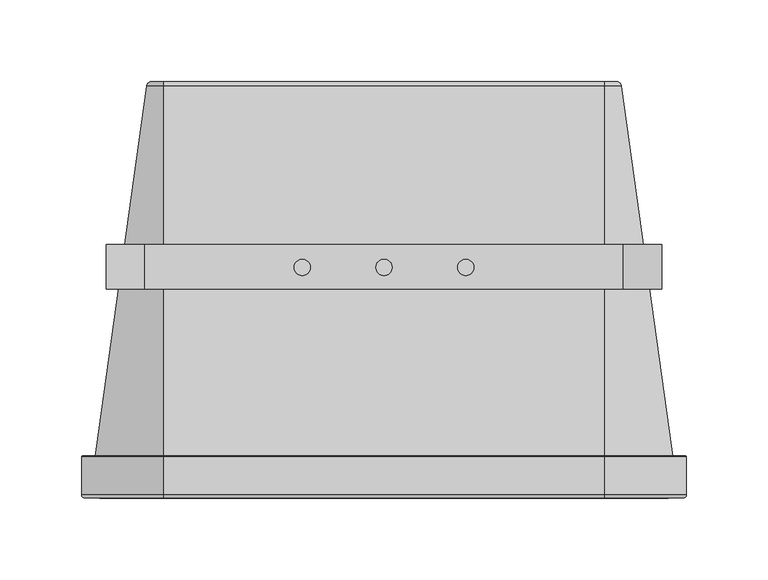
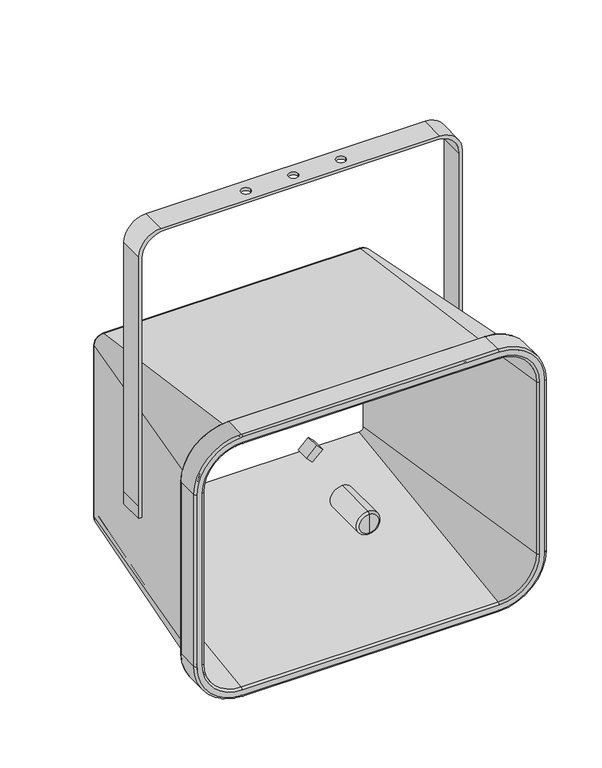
"""IFC4 building model written with IfcOpenShell, lengths in millimetres: proxy geometry, 230208 BIM Data_CS 532T VA-FR : CS 532T VA."""

from ifc_helpers import new_model, si_unit, point, frame, origin, place, context, project, spatial, polyline, circle_curve, ellipse_curve, trimmed, outline, extrude, source, transform, mapped, element, save
from ifc_brep_helpers import plane_surface, cylinder_surface, revolved_surface, advanced_brep


def communication_devices_31aff338(model_context):
    return source(origin(), model_context, "Body", "SolidModel", [
        advanced_brep(
        [(167.0, 0.50011, 146.5), (167.0, 0.50011, 133.0), (170.0, 0.50011, 133.0), (170.0, 0.50011, 424.0), (146.5, 0.50011, 447.5), (-146.5, 0.50011, 447.5), (-170.0, 0.50011, 424.0), (-170.0, 0.50011, 146.5), (-170.0, 0.50011, 133.0), (-167.0, 0.50011, 133.0), (-167.0, 0.50011, 146.5), (-167.0, 0.50011, 421.0338895), (-143.5338895, 0.50011, 444.5), (143.5, 0.50011, 444.5), (167.0, 0.50011, 421.0), (167.0, 27.6524388, 146.5), (167.0, 27.6524388, 421.0), (143.5, 27.6524388, 444.5), (-143.5338895, 27.6524388, 444.5), (-167.0, 27.6524388, 421.0338895), (-167.0, 27.6524388, 146.5), (-167.0, 27.6524388, 133.0), (-170.0, 27.6524388, 133.0), (-170.0, 27.6524388, 146.5), (-170.0, 27.6524388, 424.0), (-146.5, 27.6524388, 447.5), (146.5, 27.6524388, 447.5), (170.0, 27.6524388, 424.0), (170.0, 27.6524388, 133.0), (167.0, 27.6524388, 133.0), (5.0, 13.7017505, 447.5), (-5.0, 13.7017505, 447.5), (55.0, 13.7017505, 447.5), (45.0, 13.7017505, 447.5), (-45.0, 13.7017505, 447.5), (-55.0, 13.7017505, 447.5), (-5.0, 13.7017505, 444.5), (5.0, 13.7017505, 444.5), (45.0, 13.7017505, 444.5), (55.0, 13.7017505, 444.5), (-55.0, 13.7017505, 444.5), (-45.0, 13.7017505, 444.5)],
        [
            (0, 1),
            (1, 2),
            (2, 3),
            (3, 4, circle_curve(frame((146.5, 0.50011, 424.0), z_axis=(0.0, -1.0, 0.0), x_axis=(1.0, 0.0, 0.0)), 23.5)),
            (4, 5),
            (5, 6, circle_curve(frame((-146.5, 0.50011, 424.0), z_axis=(0.0, -1.0, 0.0), x_axis=(1.0, 0.0, 0.0)), 23.5)),
            (6, 7),
            (7, 8),
            (8, 9),
            (9, 10),
            (10, 11),
            (11, 12, circle_curve(frame((-143.5338895, 0.50011, 421.0338895), z_axis=(0.0, 1.0, 0.0), x_axis=(1.0, 0.0, 0.0)), 23.4661105)),
            (12, 13),
            (13, 14, circle_curve(frame((143.5, 0.50011, 421.0), z_axis=(0.0, 1.0, 0.0), x_axis=(1.0, 0.0, 0.0)), 23.5)),
            (14, 0),
            (15, 16),
            (16, 17, circle_curve(frame((143.5, 27.6524388, 421.0), z_axis=(0.0, -1.0, 0.0), x_axis=(1.0, 0.0, 0.0)), 23.5)),
            (17, 18),
            (18, 19, circle_curve(frame((-143.5338895, 27.6524388, 421.0338895), z_axis=(0.0, -1.0, 0.0), x_axis=(1.0, 0.0, 0.0)), 23.4661105)),
            (19, 20),
            (20, 21),
            (21, 22),
            (22, 23),
            (23, 24),
            (24, 25, circle_curve(frame((-146.5, 27.6524388, 424.0), z_axis=(0.0, 1.0, 0.0), x_axis=(1.0, 0.0, 0.0)), 23.5)),
            (25, 26),
            (26, 27, circle_curve(frame((146.5, 27.6524388, 424.0), z_axis=(0.0, 1.0, 0.0), x_axis=(1.0, 0.0, 0.0)), 23.5)),
            (27, 28),
            (28, 29),
            (29, 15),
            (0, 15),
            (29, 1),
            (28, 2),
            (27, 3),
            (26, 4),
            (25, 5),
            (30, 31, circle_curve(frame((0.0, 13.7017505, 447.5), z_axis=(0.0, 0.0, -1.0), x_axis=(1.0, 0.0, 0.0)), 5.0)),
            (31, 30, circle_curve(frame((0.0, 13.7017505, 447.5), z_axis=(0.0, 0.0, -1.0), x_axis=(1.0, 0.0, 0.0)), 5.0)),
            (32, 33, circle_curve(frame((50.0, 13.7017505, 447.5), z_axis=(0.0, 0.0, -1.0), x_axis=(1.0, 0.0, 0.0)), 5.0)),
            (33, 32, circle_curve(frame((50.0, 13.7017505, 447.5), z_axis=(0.0, 0.0, -1.0), x_axis=(1.0, 0.0, 0.0)), 5.0)),
            (34, 35, circle_curve(frame((-50.0, 13.7017505, 447.5), z_axis=(0.0, 0.0, -1.0), x_axis=(1.0, 0.0, 0.0)), 5.0)),
            (35, 34, circle_curve(frame((-50.0, 13.7017505, 447.5), z_axis=(0.0, 0.0, -1.0), x_axis=(1.0, 0.0, 0.0)), 5.0)),
            (24, 6),
            (23, 7),
            (22, 8),
            (21, 9),
            (20, 10),
            (19, 11),
            (18, 12),
            (17, 13),
            (36, 37, circle_curve(frame((0.0, 13.7017505, 444.5), z_axis=(0.0, 0.0, 1.0), x_axis=(1.0, 0.0, 0.0)), 5.0)),
            (37, 36, circle_curve(frame((0.0, 13.7017505, 444.5), z_axis=(0.0, 0.0, 1.0), x_axis=(1.0, 0.0, 0.0)), 5.0)),
            (38, 39, circle_curve(frame((50.0, 13.7017505, 444.5), z_axis=(0.0, 0.0, 1.0), x_axis=(1.0, 0.0, 0.0)), 5.0)),
            (39, 38, circle_curve(frame((50.0, 13.7017505, 444.5), z_axis=(0.0, 0.0, 1.0), x_axis=(1.0, 0.0, 0.0)), 5.0)),
            (40, 41, circle_curve(frame((-50.0, 13.7017505, 444.5), z_axis=(0.0, 0.0, 1.0), x_axis=(1.0, 0.0, 0.0)), 5.0)),
            (41, 40, circle_curve(frame((-50.0, 13.7017505, 444.5), z_axis=(0.0, 0.0, 1.0), x_axis=(1.0, 0.0, 0.0)), 5.0)),
            (16, 14),
            (36, 31),
            (30, 37),
            (38, 33),
            (32, 39),
            (40, 35),
            (34, 41),
        ],
        [
            plane_surface(frame((167.0, 0.50011, 133.0), z_axis=(0.0, -1.0, 0.0), x_axis=(0.0, 0.0, -1.0))),
            plane_surface(frame((167.0, 27.6524388, 133.0), z_axis=(0.0, 1.0, 0.0), x_axis=(0.0, 0.0, 1.0))),
            plane_surface(frame((167.0, 0.50011, 146.5), z_axis=(-1.0, 0.0, 0.0), x_axis=(0.0, 1.0, 0.0))),
            plane_surface(frame((167.0, 0.50011, 133.0), z_axis=(0.0, 0.0, -1.0), x_axis=(0.0, 1.0, 0.0))),
            plane_surface(frame((170.0, 0.50011, 133.0), z_axis=(1.0, 0.0, 0.0), x_axis=(0.0, 1.0, 0.0))),
            cylinder_surface(frame((146.5, 27.6524388, 424.0), z_axis=(0.0, -1.0, 0.0), x_axis=(1.0, 0.0, 0.0)), 23.5),
            plane_surface(frame((146.5, 0.50011, 447.5), z_axis=(0.0, 0.0, 1.0), x_axis=(0.0, 1.0, 0.0))),
            cylinder_surface(frame((-146.5, 27.6524388, 424.0), z_axis=(0.0, -1.0, 0.0), x_axis=(1.0, 0.0, 0.0)), 23.5),
            plane_surface(frame((-170.0, 0.50011, 424.0), z_axis=(-1.0, 0.0, 0.0), x_axis=(0.0, 1.0, 0.0))),
            plane_surface(frame((-170.0, 0.50011, 146.5), z_axis=(-1.0, 0.0, 0.0), x_axis=(0.0, 1.0, 0.0))),
            plane_surface(frame((-170.0, 0.50011, 133.0), z_axis=(0.0, 0.0, -1.0), x_axis=(0.0, 1.0, 0.0))),
            plane_surface(frame((-167.0, 0.50011, 133.0), z_axis=(1.0, 0.0, 0.0), x_axis=(0.0, 1.0, 0.0))),
            plane_surface(frame((-167.0, 0.50011, 146.5), z_axis=(1.0, 0.0, 0.0), x_axis=(0.0, 1.0, 0.0))),
            revolved_surface(polyline([(-120.06777899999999, 27.6524388, 421.0338895), (-120.06777899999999, 0.5001099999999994, 421.0338895)]), (-143.5338895, 27.6524388, 421.0338895), (0.0, 1.0, 0.0)),
            plane_surface(frame((-143.5338895, 0.50011, 444.5), z_axis=(0.0, 0.0, -1.0), x_axis=(0.0, 1.0, 0.0))),
            revolved_surface(polyline([(167.0, 27.6524388, 421.0), (167.0, 0.5001099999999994, 421.0)]), (143.5, 27.6524388, 421.0), (0.0, 1.0, 0.0)),
            plane_surface(frame((167.0, 0.50011, 421.0), z_axis=(-1.0, 0.0, 0.0), x_axis=(0.0, 1.0, 0.0))),
            revolved_surface(polyline([(5.0, 13.7017505, 447.5), (5.0, 13.7017505, 444.5)]), (0.0, 13.7017505, 344.2487757), (0.0, 0.0, 1.0)),
            revolved_surface(polyline([(55.0, 13.7017505, 447.5), (55.0, 13.7017505, 444.5)]), (50.0, 13.7017505, 0.0), (0.0, 0.0, 1.0)),
            revolved_surface(polyline([(-45.0, 13.7017505, 447.5), (-45.0, 13.7017505, 444.5)]), (-50.0, 13.7017505, 0.0), (0.0, 0.0, 1.0)),
        ],
        [
            (0, [[1, 2, 3, 4, 5, 6, 7, 8, 9, 10, 11, 12, 13, 14, 15]]),
            (1, [[16, 17, 18, 19, 20, 21, 22, 23, 24, 25, 26, 27, 28, 29, 30]]),
            (2, [[-1, 31, -30, 32]]),
            (3, [[-2, -32, -29, 33]]),
            (4, [[-3, -33, -28, 34]]),
            (5, [[-4, -34, -27, 35]]),
            (6, [[-5, -35, -26, 36], [37, 38], [39, 40], [41, 42]]),
            (7, [[-6, -36, -25, 43]]),
            (8, [[-7, -43, -24, 44]]),
            (9, [[-8, -44, -23, 45]]),
            (10, [[-9, -45, -22, 46]]),
            (11, [[-10, -46, -21, 47]]),
            (12, [[-11, -47, -20, 48]]),
            (13, [[-12, -48, -19, 49]]),
            (14, [[-13, -49, -18, 50], [51, 52], [53, 54], [55, 56]]),
            (15, [[-14, -50, -17, 57]]),
            (16, [[-15, -57, -16, -31]]),
            (17, [[58, -37, 59, -51]]),
            (17, [[-58, -52, -59, -38]]),
            (18, [[60, -39, 61, -53]]),
            (18, [[-60, -54, -61, -40]]),
            (19, [[62, -41, 63, -55]]),
            (19, [[-62, -56, -63, -42]]),
        ],
    ),
        advanced_brep(
        [(185.0, -125.5969324, 241.0), (135.0, -125.5969324, 291.0), (135.0, -127.5, 289.0969324), (183.0969324, -127.5, 241.0), (185.0, -102.2644169, 241.0), (135.0, -102.2644169, 291.0), (184.2842577, -101.5486745, 241.0), (135.0, -101.5486745, 290.2842577), (182.6307827, -121.5486745, 241.0), (135.0, -121.5486745, 288.6307827), (135.0, -101.5486745, 288.6307827), (182.6307827, -101.5486745, 241.0), (145.3017115, 124.8940979, 241.0), (135.0, 124.8940979, 251.3017115), (135.0, -119.685317, 285.247373), (179.247373, -119.685317, 241.0), (175.0565132, -125.6555711, 241.0), (135.0, -125.6555711, 281.0565132), (135.0, 127.5, 245.4778179), (139.4778179, 127.5, 241.0), (183.0969324, -127.5, 50.0), (185.0, -125.5969324, 50.0), (185.0, -102.2644169, 50.0), (184.2842577, -101.5486745, 50.0), (182.6307827, -101.5486745, 50.0), (182.6307827, -121.5486745, 50.0), (179.247373, -119.685317, 50.0), (145.3017115, 124.8940979, 50.0), (139.4778179, 127.5, 50.0), (175.0565132, -125.6555711, 50.0), (135.0, -125.5969324, 0.0), (135.0, -127.5, 1.9030676), (135.0, -102.2644169, 0.0), (135.0, -101.5486745, 0.7157423), (135.0, -121.5486745, 2.3692173), (135.0, -101.5486745, 2.3692173), (135.0, 124.8940979, 39.6982885), (135.0, -119.685317, 5.752627), (135.0, -125.6555711, 9.9434868), (135.0, 127.5, 45.5221821), (-135.0, -127.5, 1.9030676), (-135.0, -125.5969324, 0.0), (-135.0, -102.2644169, 0.0), (-135.0, -101.5486745, 0.7157423), (-135.0, -101.5486745, 2.3692173), (-135.0, -121.5486745, 2.3692173), (-135.0, -119.685317, 5.752627), (-135.0, 124.8940979, 39.6982885), (-135.0, 127.5, 45.5221821), (-135.0, -125.6555711, 9.9434868), (-185.0, -125.5969324, 50.0), (-183.0969324, -127.5, 50.0), (-185.0, -102.2644169, 50.0), (-184.2842577, -101.5486745, 50.0), (-182.6307827, -121.5486745, 50.0), (-182.6307827, -101.5486745, 50.0), (-145.3017115, 124.8940979, 50.0), (-179.247373, -119.685317, 50.0), (-175.0565132, -125.6555711, 50.0), (-139.4778179, 127.5, 50.0), (-183.0969324, -127.5, 241.0), (-185.0, -125.5969324, 241.0), (-185.0, -102.2644169, 241.0), (-184.2842577, -101.5486745, 241.0), (-182.6307827, -101.5486745, 241.0), (-182.6307827, -121.5486745, 241.0), (-179.247373, -119.685317, 241.0), (-145.3017115, 124.8940979, 241.0), (-139.4778179, 127.5, 241.0), (-175.0565132, -125.6555711, 241.0), (-135.0, -125.5969324, 291.0), (-135.0, -127.5, 289.0969324), (-135.0, -102.2644169, 291.0), (-135.0, -101.5486745, 290.2842577), (-135.0, -121.5486745, 288.6307827), (-135.0, -101.5486745, 288.6307827), (-135.0, 124.8940979, 251.3017115), (-135.0, -119.685317, 285.247373), (-135.0, -125.6555711, 281.0565132), (-135.0, 127.5, 245.4778179), (-177.1782859, -127.5, 50.0), (-177.1782859, -127.5, 241.0), (-135.0, -127.5, 283.1782859), (135.0, -127.5, 283.1782859), (177.1782859, -127.5, 241.0), (177.1782859, -127.5, 50.0), (135.0, -127.5, 7.8217141), (-135.0, -127.5, 7.8217141), (135.0, -121.5486745, 287.3909207), (-135.0, -121.5486745, 287.3909207), (-181.3909207, -121.5486745, 241.0), (-181.3909207, -121.5486745, 50.0), (-135.0, -121.5486745, 3.6090793), (135.0, -121.5486745, 3.6090793), (181.3909207, -121.5486745, 50.0), (181.3909207, -121.5486745, 241.0), (-142.3091519, 127.5, 50.0), (-142.3091519, 127.5, 241.0), (-135.0, 127.5, 248.3091519), (135.0, 127.5, 248.3091519), (142.3091519, 127.5, 241.0), (142.3091519, 127.5, 50.0), (135.0, 127.5, 42.6908481), (-135.0, 127.5, 42.6908481)],
        [
            (0, 1, circle_curve(frame((135.0, -125.5969324, 241.0), z_axis=(0.0, -1.0, 0.0), x_axis=(0.0, 0.0, 1.0)), 50.0)),
            (1, 2, circle_curve(frame((135.0, -125.5969324, 289.0969324), z_axis=(1.0, 0.0, 0.0), x_axis=(0.0, 0.0, 1.0)), 1.9030676)),
            (2, 3, circle_curve(frame((135.0, -127.5, 241.0), z_axis=(0.0, 1.0, 0.0), x_axis=(0.0, 0.0, 1.0)), 48.0969324)),
            (3, 0, circle_curve(frame((183.0969324, -125.5969324, 241.0), z_axis=(0.0, 0.0, 1.0), x_axis=(1.0, 0.0, 0.0)), 1.9030676)),
            (4, 5, circle_curve(frame((135.0, -102.2644169, 241.0), z_axis=(0.0, -1.0, 0.0), x_axis=(0.0, 0.0, 1.0)), 50.0)),
            (5, 1),
            (0, 4),
            (6, 7, circle_curve(frame((135.0, -101.5486745, 241.0), z_axis=(0.0, -1.0, 0.0), x_axis=(0.0, 0.0, 1.0)), 49.2842577)),
            (7, 5, circle_curve(frame((135.0, -102.2644169, 290.2842577), z_axis=(1.0, 0.0, 0.0), x_axis=(0.0, 0.0, 1.0)), 0.7157423)),
            (4, 6, circle_curve(frame((184.2842577, -102.2644169, 241.0), z_axis=(0.0, 0.0, 1.0), x_axis=(1.0, 0.0, 0.0)), 0.7157423)),
            (8, 9, circle_curve(frame((135.0, -121.5486745, 241.0), z_axis=(0.0, -1.0, 0.0), x_axis=(0.0, 0.0, 1.0)), 47.6307827)),
            (9, 10),
            (10, 11, circle_curve(frame((135.0, -101.5486745, 241.0), z_axis=(0.0, 1.0, 0.0), x_axis=(0.0, 0.0, 1.0)), 47.6307827)),
            (11, 8),
            (12, 13, circle_curve(frame((135.0, 124.8940979, 241.0), z_axis=(0.0, -1.0, 0.0), x_axis=(0.0, 0.0, 1.0)), 10.3017115)),
            (13, 14),
            (14, 15, circle_curve(frame((135.0, -119.685317, 241.0), z_axis=(0.0, 1.0, 0.0), x_axis=(0.0, 0.0, 1.0)), 44.247373)),
            (15, 12),
            (16, 17, circle_curve(frame((135.0, -125.6555711, 241.0), z_axis=(0.0, -1.0, 0.0), x_axis=(0.0, 0.0, 1.0)), 40.0565132)),
            (17, 18),
            (18, 19, circle_curve(frame((135.0, 127.5, 241.0), z_axis=(0.0, 1.0, 0.0), x_axis=(0.0, 0.0, 1.0)), 4.4778179)),
            (19, 16),
            (3, 20),
            (20, 21, circle_curve(frame((183.0969324, -125.5969324, 50.0), z_axis=(0.0, 0.0, 1.0), x_axis=(1.0, 0.0, 0.0)), 1.9030676)),
            (21, 0),
            (21, 22),
            (22, 4),
            (22, 23, circle_curve(frame((184.2842577, -102.2644169, 50.0), z_axis=(0.0, 0.0, 1.0), x_axis=(1.0, 0.0, 0.0)), 0.7157423)),
            (23, 6),
            (11, 24),
            (24, 25),
            (25, 8),
            (15, 26),
            (26, 27),
            (27, 12),
            (19, 28),
            (28, 29),
            (29, 16),
            (30, 21, circle_curve(frame((135.0, -125.5969324, 50.0), z_axis=(0.0, -1.0, 0.0), x_axis=(1.0, 0.0, 0.0)), 50.0)),
            (20, 31, circle_curve(frame((135.0, -127.5, 50.0), z_axis=(0.0, 1.0, 0.0), x_axis=(1.0, 0.0, 0.0)), 48.0969324)),
            (31, 30, circle_curve(frame((135.0, -125.5969324, 1.9030676), z_axis=(1.0, 0.0, 0.0), x_axis=(0.0, 0.0, -1.0)), 1.9030676)),
            (32, 22, circle_curve(frame((135.0, -102.2644169, 50.0), z_axis=(0.0, -1.0, 0.0), x_axis=(1.0, 0.0, 0.0)), 50.0)),
            (30, 32),
            (33, 23, circle_curve(frame((135.0, -101.5486745, 50.0), z_axis=(0.0, -1.0, 0.0), x_axis=(1.0, 0.0, 0.0)), 49.2842577)),
            (32, 33, circle_curve(frame((135.0, -102.2644169, 0.7157423), z_axis=(1.0, 0.0, 0.0), x_axis=(0.0, 0.0, -1.0)), 0.7157423)),
            (34, 25, circle_curve(frame((135.0, -121.5486745, 50.0), z_axis=(0.0, -1.0, 0.0), x_axis=(1.0, 0.0, 0.0)), 47.6307827)),
            (24, 35, circle_curve(frame((135.0, -101.5486745, 50.0), z_axis=(0.0, 1.0, 0.0), x_axis=(1.0, 0.0, 0.0)), 47.6307827)),
            (35, 34),
            (36, 27, circle_curve(frame((135.0, 124.8940979, 50.0), z_axis=(0.0, -1.0, 0.0), x_axis=(1.0, 0.0, 0.0)), 10.3017115)),
            (26, 37, circle_curve(frame((135.0, -119.685317, 50.0), z_axis=(0.0, 1.0, 0.0), x_axis=(1.0, 0.0, 0.0)), 44.247373)),
            (37, 36),
            (38, 29, circle_curve(frame((135.0, -125.6555711, 50.0), z_axis=(0.0, -1.0, 0.0), x_axis=(1.0, 0.0, 0.0)), 40.0565132)),
            (28, 39, circle_curve(frame((135.0, 127.5, 50.0), z_axis=(0.0, 1.0, 0.0), x_axis=(1.0, 0.0, 0.0)), 4.4778179)),
            (39, 38),
            (31, 40),
            (40, 41, circle_curve(frame((-135.0, -125.5969324, 1.9030676), z_axis=(1.0, 0.0, 0.0), x_axis=(0.0, 0.0, -1.0)), 1.9030676)),
            (41, 30),
            (41, 42),
            (42, 32),
            (42, 43, circle_curve(frame((-135.0, -102.2644169, 0.7157423), z_axis=(1.0, 0.0, 0.0), x_axis=(0.0, 0.0, -1.0)), 0.7157423)),
            (43, 33),
            (35, 44),
            (44, 45),
            (45, 34),
            (37, 46),
            (46, 47),
            (47, 36),
            (39, 48),
            (48, 49),
            (49, 38),
            (50, 41, circle_curve(frame((-135.0, -125.5969324, 50.0), z_axis=(0.0, -1.0, 0.0), x_axis=(0.0, 0.0, -1.0)), 50.0)),
            (40, 51, circle_curve(frame((-135.0, -127.5, 50.0), z_axis=(0.0, 1.0, 0.0), x_axis=(0.0, 0.0, -1.0)), 48.0969324)),
            (51, 50, circle_curve(frame((-183.0969324, -125.5969324, 50.0), z_axis=(0.0, 0.0, -1.0), x_axis=(-1.0, 0.0, 0.0)), 1.9030676)),
            (52, 42, circle_curve(frame((-135.0, -102.2644169, 50.0), z_axis=(0.0, -1.0, 0.0), x_axis=(0.0, 0.0, -1.0)), 50.0)),
            (50, 52),
            (53, 43, circle_curve(frame((-135.0, -101.5486745, 50.0), z_axis=(0.0, -1.0, 0.0), x_axis=(0.0, 0.0, -1.0)), 49.2842577)),
            (52, 53, circle_curve(frame((-184.2842577, -102.2644169, 50.0), z_axis=(0.0, 0.0, -1.0), x_axis=(-1.0, 0.0, 0.0)), 0.7157423)),
            (54, 45, circle_curve(frame((-135.0, -121.5486745, 50.0), z_axis=(0.0, -1.0, 0.0), x_axis=(0.0, 0.0, -1.0)), 47.6307827)),
            (44, 55, circle_curve(frame((-135.0, -101.5486745, 50.0), z_axis=(0.0, 1.0, 0.0), x_axis=(0.0, 0.0, -1.0)), 47.6307827)),
            (55, 54),
            (56, 47, circle_curve(frame((-135.0, 124.8940979, 50.0), z_axis=(0.0, -1.0, 0.0), x_axis=(0.0, 0.0, -1.0)), 10.3017115)),
            (46, 57, circle_curve(frame((-135.0, -119.685317, 50.0), z_axis=(0.0, 1.0, 0.0), x_axis=(0.0, 0.0, -1.0)), 44.247373)),
            (57, 56),
            (58, 49, circle_curve(frame((-135.0, -125.6555711, 50.0), z_axis=(0.0, -1.0, 0.0), x_axis=(0.0, 0.0, -1.0)), 40.0565132)),
            (48, 59, circle_curve(frame((-135.0, 127.5, 50.0), z_axis=(0.0, 1.0, 0.0), x_axis=(0.0, 0.0, -1.0)), 4.4778179)),
            (59, 58),
            (51, 60),
            (60, 61, circle_curve(frame((-183.0969324, -125.5969324, 241.0), z_axis=(0.0, 0.0, -1.0), x_axis=(-1.0, 0.0, 0.0)), 1.9030676)),
            (61, 50),
            (61, 62),
            (62, 52),
            (62, 63, circle_curve(frame((-184.2842577, -102.2644169, 241.0), z_axis=(0.0, 0.0, -1.0), x_axis=(-1.0, 0.0, 0.0)), 0.7157423)),
            (63, 53),
            (55, 64),
            (64, 65),
            (65, 54),
            (57, 66),
            (66, 67),
            (67, 56),
            (59, 68),
            (68, 69),
            (69, 58),
            (70, 61, circle_curve(frame((-135.0, -125.5969324, 241.0), z_axis=(0.0, -1.0, 0.0), x_axis=(-1.0, 0.0, 0.0)), 50.0)),
            (60, 71, circle_curve(frame((-135.0, -127.5, 241.0), z_axis=(0.0, 1.0, 0.0), x_axis=(-1.0, 0.0, 0.0)), 48.0969324)),
            (71, 70, circle_curve(frame((-135.0, -125.5969324, 289.0969324), z_axis=(-1.0, 0.0, 0.0), x_axis=(0.0, 0.0, 1.0)), 1.9030676)),
            (72, 62, circle_curve(frame((-135.0, -102.2644169, 241.0), z_axis=(0.0, -1.0, 0.0), x_axis=(-1.0, 0.0, 0.0)), 50.0)),
            (70, 72),
            (73, 63, circle_curve(frame((-135.0, -101.5486745, 241.0), z_axis=(0.0, -1.0, 0.0), x_axis=(-1.0, 0.0, 0.0)), 49.2842577)),
            (72, 73, circle_curve(frame((-135.0, -102.2644169, 290.2842577), z_axis=(-1.0, 0.0, 0.0), x_axis=(0.0, 0.0, 1.0)), 0.7157423)),
            (74, 65, circle_curve(frame((-135.0, -121.5486745, 241.0), z_axis=(0.0, -1.0, 0.0), x_axis=(-1.0, 0.0, 0.0)), 47.6307827)),
            (64, 75, circle_curve(frame((-135.0, -101.5486745, 241.0), z_axis=(0.0, 1.0, 0.0), x_axis=(-1.0, 0.0, 0.0)), 47.6307827)),
            (75, 74),
            (76, 67, circle_curve(frame((-135.0, 124.8940979, 241.0), z_axis=(0.0, -1.0, 0.0), x_axis=(-1.0, 0.0, 0.0)), 10.3017115)),
            (66, 77, circle_curve(frame((-135.0, -119.685317, 241.0), z_axis=(0.0, 1.0, 0.0), x_axis=(-1.0, 0.0, 0.0)), 44.247373)),
            (77, 76),
            (78, 69, circle_curve(frame((-135.0, -125.6555711, 241.0), z_axis=(0.0, -1.0, 0.0), x_axis=(-1.0, 0.0, 0.0)), 40.0565132)),
            (68, 79, circle_curve(frame((-135.0, 127.5, 241.0), z_axis=(0.0, 1.0, 0.0), x_axis=(-1.0, 0.0, 0.0)), 4.4778179)),
            (79, 78),
            (2, 71),
            (80, 81),
            (81, 82, circle_curve(frame((-135.0, -127.5, 241.0), z_axis=(0.0, 1.0, 0.0), x_axis=(-1.0, 0.0, 0.0)), 42.1782859)),
            (82, 83),
            (83, 84, circle_curve(frame((135.0, -127.5, 241.0), z_axis=(0.0, 1.0, 0.0), x_axis=(0.0, 0.0, 1.0)), 42.1782859)),
            (84, 85),
            (85, 86, circle_curve(frame((135.0, -127.5, 50.0), z_axis=(0.0, 1.0, 0.0), x_axis=(1.0, 0.0, 0.0)), 42.1782859)),
            (86, 87),
            (87, 80, circle_curve(frame((-135.0, -127.5, 50.0), z_axis=(0.0, 1.0, 0.0), x_axis=(0.0, 0.0, -1.0)), 42.1782859)),
            (1, 70),
            (5, 72),
            (7, 73),
            (10, 75),
            (9, 74),
            (88, 89),
            (89, 90, circle_curve(frame((-135.0, -121.5486745, 241.0), z_axis=(0.0, -1.0, 0.0), x_axis=(-1.0, 0.0, 0.0)), 46.3909207)),
            (90, 91),
            (91, 92, circle_curve(frame((-135.0, -121.5486745, 50.0), z_axis=(0.0, -1.0, 0.0), x_axis=(0.0, 0.0, -1.0)), 46.3909207)),
            (92, 93),
            (93, 94, circle_curve(frame((135.0, -121.5486745, 50.0), z_axis=(0.0, -1.0, 0.0), x_axis=(1.0, 0.0, 0.0)), 46.3909207)),
            (94, 95),
            (95, 88, circle_curve(frame((135.0, -121.5486745, 241.0), z_axis=(0.0, -1.0, 0.0), x_axis=(0.0, 0.0, 1.0)), 46.3909207)),
            (77, 14),
            (13, 76),
            (96, 97),
            (97, 98, circle_curve(frame((-135.0, 127.5, 241.0), z_axis=(0.0, 1.0, 0.0), x_axis=(-1.0, 0.0, 0.0)), 7.3091519)),
            (98, 99),
            (99, 100, circle_curve(frame((135.0, 127.5, 241.0), z_axis=(0.0, 1.0, 0.0), x_axis=(0.0, 0.0, 1.0)), 7.3091519)),
            (100, 101),
            (101, 102, circle_curve(frame((135.0, 127.5, 50.0), z_axis=(0.0, 1.0, 0.0), x_axis=(1.0, 0.0, 0.0)), 7.3091519)),
            (102, 103),
            (103, 96, circle_curve(frame((-135.0, 127.5, 50.0), z_axis=(0.0, 1.0, 0.0), x_axis=(0.0, 0.0, -1.0)), 7.3091519)),
            (18, 79),
            (17, 78),
            (14, 88, circle_curve(frame((135.0, -119.384061, 287.3909207), z_axis=(-1.0, 0.0, 0.0), x_axis=(0.0, 0.0, 1.0)), 2.1646135)),
            (95, 15, circle_curve(frame((181.3909207, -119.384061, 241.0), z_axis=(0.0, 0.0, -1.0), x_axis=(1.0, 0.0, 0.0)), 2.1646135)),
            (83, 17, circle_curve(frame((135.0, -125.3573754, 283.1782859), z_axis=(1.0, 0.0, 0.0), x_axis=(0.0, 0.0, 1.0)), 2.1426246)),
            (16, 84, circle_curve(frame((177.1782859, -125.3573754, 241.0), z_axis=(0.0, 0.0, 1.0), x_axis=(1.0, 0.0, 0.0)), 2.1426246)),
            (94, 26, circle_curve(frame((181.3909207, -119.384061, 50.0), z_axis=(0.0, 0.0, -1.0), x_axis=(1.0, 0.0, 0.0)), 2.1646135)),
            (29, 85, circle_curve(frame((177.1782859, -125.3573754, 50.0), z_axis=(0.0, 0.0, 1.0), x_axis=(1.0, 0.0, 0.0)), 2.1426246)),
            (93, 37, circle_curve(frame((135.0, -119.384061, 3.6090793), z_axis=(-1.0, 0.0, 0.0), x_axis=(0.0, 0.0, -1.0)), 2.1646135)),
            (38, 86, circle_curve(frame((135.0, -125.3573754, 7.8217141), z_axis=(1.0, 0.0, 0.0), x_axis=(0.0, 0.0, -1.0)), 2.1426246)),
            (92, 46, circle_curve(frame((-135.0, -119.384061, 3.6090793), z_axis=(-1.0, 0.0, 0.0), x_axis=(0.0, 0.0, -1.0)), 2.1646135)),
            (49, 87, circle_curve(frame((-135.0, -125.3573754, 7.8217141), z_axis=(1.0, 0.0, 0.0), x_axis=(0.0, 0.0, -1.0)), 2.1426246)),
            (91, 57, circle_curve(frame((-181.3909207, -119.384061, 50.0), z_axis=(0.0, 0.0, 1.0), x_axis=(-1.0, 0.0, 0.0)), 2.1646135)),
            (58, 80, circle_curve(frame((-177.1782859, -125.3573754, 50.0), z_axis=(0.0, 0.0, -1.0), x_axis=(-1.0, 0.0, 0.0)), 2.1426246)),
            (90, 66, circle_curve(frame((-181.3909207, -119.384061, 241.0), z_axis=(0.0, 0.0, 1.0), x_axis=(-1.0, 0.0, 0.0)), 2.1646135)),
            (69, 81, circle_curve(frame((-177.1782859, -125.3573754, 241.0), z_axis=(0.0, 0.0, -1.0), x_axis=(-1.0, 0.0, 0.0)), 2.1426246)),
            (89, 77, circle_curve(frame((-135.0, -119.384061, 287.3909207), z_axis=(1.0, 0.0, 0.0), x_axis=(0.0, 0.0, 1.0)), 2.1646135)),
            (78, 82, circle_curve(frame((-135.0, -125.3573754, 283.1782859), z_axis=(-1.0, 0.0, 0.0), x_axis=(0.0, 0.0, 1.0)), 2.1426246)),
            (99, 13, circle_curve(frame((135.0, 124.4787546, 248.3091519), z_axis=(1.0, 0.0, 0.0), x_axis=(0.0, 0.0, 1.0)), 3.0212454)),
            (12, 100, circle_curve(frame((142.3091519, 124.4787546, 241.0), z_axis=(0.0, 0.0, 1.0), x_axis=(1.0, 0.0, 0.0)), 3.0212454)),
            (27, 101, circle_curve(frame((142.3091519, 124.4787546, 50.0), z_axis=(0.0, 0.0, 1.0), x_axis=(1.0, 0.0, 0.0)), 3.0212454)),
            (36, 102, circle_curve(frame((135.0, 124.4787546, 42.6908481), z_axis=(1.0, 0.0, 0.0), x_axis=(0.0, 0.0, -1.0)), 3.0212454)),
            (47, 103, circle_curve(frame((-135.0, 124.4787546, 42.6908481), z_axis=(1.0, 0.0, 0.0), x_axis=(0.0, 0.0, -1.0)), 3.0212454)),
            (56, 96, circle_curve(frame((-142.3091519, 124.4787546, 50.0), z_axis=(0.0, 0.0, -1.0), x_axis=(-1.0, 0.0, 0.0)), 3.0212454)),
            (67, 97, circle_curve(frame((-142.3091519, 124.4787546, 241.0), z_axis=(0.0, 0.0, -1.0), x_axis=(-1.0, 0.0, 0.0)), 3.0212454)),
            (76, 98, circle_curve(frame((-135.0, 124.4787546, 248.3091519), z_axis=(-1.0, 0.0, 0.0), x_axis=(0.0, 0.0, 1.0)), 3.0212454)),
        ],
        [
            revolved_surface(trimmed(ellipse_curve(frame((135.0, -125.5969324, 289.0969324), z_axis=(-1.0, 0.0, 0.0), x_axis=(0.0, 0.0, 1.0)), 1.9030676, 1.9030676), [point((135.0, -127.5, 289.0969324))], [point((135.0, -125.5969324, 291.0))], True, "CARTESIAN"), (135.0, 0.0, 241.0), (0.0, 1.0, 0.0)),
            cylinder_surface(frame((135.0, 0.0, 241.0), z_axis=(0.0, 1.0, 0.0), x_axis=(0.0, 0.0, 1.0)), 50.0),
            revolved_surface(trimmed(ellipse_curve(frame((135.0, -102.2644169, 290.2842577), z_axis=(-1.0, 0.0, 0.0), x_axis=(0.0, 0.0, 1.0)), 0.7157423, 0.7157423), [point((135.0, -102.2644169, 291.0))], [point((135.0, -101.5486745, 290.2842577))], True, "CARTESIAN"), (135.0, 0.0, 241.0), (0.0, 1.0, 0.0)),
            revolved_surface(polyline([(135.0, -101.5486745, 288.6307827), (135.0, -121.5486745, 288.6307827)]), (135.0, 0.0, 241.0), (0.0, 1.0, 0.0)),
            revolved_surface(polyline([(135.0, -119.685317, 285.247373), (135.0, 124.8940979, 251.3017115)]), (135.0, 0.0, 241.0), (0.0, 1.0, 0.0)),
            revolved_surface(polyline([(135.0, 127.5, 245.4778179), (135.0, -125.6555711, 281.0565132)]), (135.0, 0.0, 241.0), (0.0, 1.0, 0.0)),
            cylinder_surface(frame((183.0969324, -125.5969324, 241.0), z_axis=(0.0, 0.0, 1.0), x_axis=(1.0, 0.0, 0.0)), 1.9030676),
            plane_surface(frame((185.0, -125.5969324, 241.0), z_axis=(1.0, 0.0, 0.0), x_axis=(0.0, 0.0, -1.0))),
            cylinder_surface(frame((184.2842577, -102.2644169, 241.0), z_axis=(0.0, 0.0, 1.0), x_axis=(1.0, 0.0, 0.0)), 0.7157423),
            plane_surface(frame((182.6307827, -101.5486745, 241.0), z_axis=(-1.0, 0.0, 0.0), x_axis=(0.0, 0.0, -1.0))),
            plane_surface(frame((179.247373, -119.685317, 241.0), z_axis=(0.9905053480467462, 0.13747419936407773, 0.0), x_axis=(0.0, 0.0, -1.0))),
            plane_surface(frame((139.4778179, 127.5, 241.0), z_axis=(-0.9902680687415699, -0.13917310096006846, 0.0), x_axis=(0.0, 0.0, -1.0))),
            revolved_surface(trimmed(ellipse_curve(frame((183.0969324, -125.5969324, 50.0), z_axis=(0.0, 0.0, 1.0), x_axis=(1.0, 0.0, 0.0)), 1.9030676, 1.9030676), [point((183.0969324, -127.5, 50.0))], [point((185.0, -125.5969324, 50.0))], True, "CARTESIAN"), (135.0, 0.0, 50.0), (0.0, 1.0, 0.0)),
            cylinder_surface(frame((135.0, 0.0, 50.0), z_axis=(0.0, 1.0, 0.0), x_axis=(1.0, 0.0, 0.0)), 50.0),
            revolved_surface(trimmed(ellipse_curve(frame((184.2842577, -102.2644169, 50.0), z_axis=(0.0, 0.0, 1.0), x_axis=(1.0, 0.0, 0.0)), 0.7157423, 0.7157423), [point((185.0, -102.2644169, 50.0))], [point((184.2842577, -101.5486745, 50.0))], True, "CARTESIAN"), (135.0, 0.0, 50.0), (0.0, 1.0, 0.0)),
            revolved_surface(polyline([(182.6307827, -101.5486745, 50.0), (182.6307827, -121.5486745, 50.0)]), (135.0, 0.0, 50.0), (0.0, 1.0, 0.0)),
            revolved_surface(polyline([(179.247373, -119.685317, 50.0), (145.3017115, 124.8940979, 50.0)]), (135.0, 0.0, 50.0), (0.0, 1.0, 0.0)),
            revolved_surface(polyline([(139.4778179, 127.5, 50.0), (175.0565132, -125.6555711, 50.0)]), (135.0, 0.0, 50.0), (0.0, 1.0, 0.0)),
            cylinder_surface(frame((135.0, -125.5969324, 1.9030676), z_axis=(1.0, 0.0, 0.0), x_axis=(0.0, 0.0, -1.0)), 1.9030676),
            plane_surface(frame((135.0, -125.5969324, 0.0), z_axis=(0.0, 0.0, -1.0), x_axis=(-1.0, 0.0, 0.0))),
            cylinder_surface(frame((135.0, -102.2644169, 0.7157423), z_axis=(1.0, 0.0, 0.0), x_axis=(0.0, 0.0, -1.0)), 0.7157423),
            plane_surface(frame((135.0, -101.5486745, 2.3692173), z_axis=(0.0, 0.0, 1.0), x_axis=(-1.0, 0.0, 0.0))),
            plane_surface(frame((135.0, -119.685317, 5.752627), z_axis=(0.0, 0.13747419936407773, -0.9905053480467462), x_axis=(-1.0, 0.0, 0.0))),
            plane_surface(frame((135.0, 127.5, 45.5221821), z_axis=(0.0, -0.13917310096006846, 0.9902680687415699), x_axis=(-1.0, 0.0, 0.0))),
            revolved_surface(trimmed(ellipse_curve(frame((-135.0, -125.5969324, 1.9030676), z_axis=(1.0, 0.0, 0.0), x_axis=(0.0, 0.0, -1.0)), 1.9030676, 1.9030676), [point((-135.0, -127.5, 1.9030676))], [point((-135.0, -125.5969324, 0.0))], True, "CARTESIAN"), (-135.0, 0.0, 50.0), (0.0, 1.0, 0.0)),
            cylinder_surface(frame((-135.0, 0.0, 50.0), z_axis=(0.0, 1.0, 0.0), x_axis=(0.0, 0.0, -1.0)), 50.0),
            revolved_surface(trimmed(ellipse_curve(frame((-135.0, -102.2644169, 0.7157423), z_axis=(1.0, 0.0, 0.0), x_axis=(0.0, 0.0, -1.0)), 0.7157423, 0.7157423), [point((-135.0, -102.2644169, 0.0))], [point((-135.0, -101.5486745, 0.7157423))], True, "CARTESIAN"), (-135.0, 0.0, 50.0), (0.0, 1.0, 0.0)),
            revolved_surface(polyline([(-135.0, -101.5486745, 2.3692173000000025), (-135.0, -121.5486745, 2.3692173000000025)]), (-135.0, 0.0, 50.0), (0.0, 1.0, 0.0)),
            revolved_surface(polyline([(-135.0, -119.685317, 5.752627), (-135.0, 124.8940979, 39.6982885)]), (-135.0, 0.0, 50.0), (0.0, 1.0, 0.0)),
            revolved_surface(polyline([(-135.0, 127.5, 45.5221821), (-135.0, -125.6555711, 9.9434868)]), (-135.0, 0.0, 50.0), (0.0, 1.0, 0.0)),
            cylinder_surface(frame((-183.0969324, -125.5969324, 50.0), z_axis=(0.0, 0.0, -1.0), x_axis=(-1.0, 0.0, 0.0)), 1.9030676),
            plane_surface(frame((-185.0, -125.5969324, 50.0), z_axis=(-1.0, 0.0, 0.0), x_axis=(0.0, 0.0, 1.0))),
            cylinder_surface(frame((-184.2842577, -102.2644169, 50.0), z_axis=(0.0, 0.0, -1.0), x_axis=(-1.0, 0.0, 0.0)), 0.7157423),
            plane_surface(frame((-182.6307827, -101.5486745, 50.0), z_axis=(1.0, 0.0, 0.0), x_axis=(0.0, 0.0, 1.0))),
            plane_surface(frame((-179.247373, -119.685317, 50.0), z_axis=(-0.9905053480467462, 0.13747419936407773, 0.0), x_axis=(0.0, 0.0, 1.0))),
            plane_surface(frame((-139.4778179, 127.5, 50.0), z_axis=(0.9902680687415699, -0.13917310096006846, 0.0), x_axis=(0.0, 0.0, 1.0))),
            revolved_surface(trimmed(ellipse_curve(frame((-183.0969324, -125.5969324, 241.0), z_axis=(0.0, 0.0, -1.0), x_axis=(-1.0, 0.0, 0.0)), 1.9030676, 1.9030676), [point((-183.0969324, -127.5, 241.0))], [point((-185.0, -125.5969324, 241.0))], True, "CARTESIAN"), (-135.0, 0.0, 241.0), (0.0, 1.0, 0.0)),
            cylinder_surface(frame((-135.0, 0.0, 241.0), z_axis=(0.0, 1.0, 0.0), x_axis=(-1.0, 0.0, 0.0)), 50.0),
            revolved_surface(trimmed(ellipse_curve(frame((-184.2842577, -102.2644169, 241.0), z_axis=(0.0, 0.0, -1.0), x_axis=(-1.0, 0.0, 0.0)), 0.7157423, 0.7157423), [point((-185.0, -102.2644169, 241.0))], [point((-184.2842577, -101.5486745, 241.0))], True, "CARTESIAN"), (-135.0, 0.0, 241.0), (0.0, 1.0, 0.0)),
            revolved_surface(polyline([(-182.6307827, -101.5486745, 241.0), (-182.6307827, -121.5486745, 241.0)]), (-135.0, 0.0, 241.0), (0.0, 1.0, 0.0)),
            revolved_surface(polyline([(-179.247373, -119.685317, 241.0), (-145.3017115, 124.8940979, 241.0)]), (-135.0, 0.0, 241.0), (0.0, 1.0, 0.0)),
            revolved_surface(polyline([(-139.4778179, 127.5, 241.0), (-175.0565132, -125.6555711, 241.0)]), (-135.0, 0.0, 241.0), (0.0, 1.0, 0.0)),
            plane_surface(frame((-135.0, -127.5, 283.1782859), z_axis=(0.0, -1.0, 0.0), x_axis=(1.0, 0.0, 0.0))),
            cylinder_surface(frame((-135.0, -125.5969324, 289.0969324), z_axis=(-1.0, 0.0, 0.0), x_axis=(0.0, 0.0, 1.0)), 1.9030676),
            plane_surface(frame((-135.0, -125.5969324, 291.0), z_axis=(0.0, 0.0, 1.0), x_axis=(1.0, 0.0, 0.0))),
            cylinder_surface(frame((-135.0, -102.2644169, 290.2842577), z_axis=(-1.0, 0.0, 0.0), x_axis=(0.0, 0.0, 1.0)), 0.7157423),
            plane_surface(frame((-135.0, -101.5486745, 290.2842577), z_axis=(0.0, 1.0, 0.0), x_axis=(1.0, 0.0, 0.0))),
            plane_surface(frame((-135.0, -101.5486745, 288.6307827), z_axis=(0.0, 0.0, -1.0), x_axis=(1.0, 0.0, 0.0))),
            plane_surface(frame((-135.0, -121.5486745, 288.6307827), z_axis=(0.0, 1.0, 0.0), x_axis=(1.0, 0.0, 0.0))),
            plane_surface(frame((-135.0, -119.685317, 285.247373), z_axis=(0.0, 0.13747419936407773, 0.9905053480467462), x_axis=(1.0, 0.0, 0.0))),
            plane_surface(frame((-135.0, 127.5, 248.3091519), z_axis=(0.0, 1.0, 0.0), x_axis=(1.0, 0.0, 0.0))),
            plane_surface(frame((-135.0, 127.5, 245.4778179), z_axis=(0.0, -0.13917310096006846, -0.9902680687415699), x_axis=(1.0, 0.0, 0.0))),
            revolved_surface(trimmed(ellipse_curve(frame((135.0, -119.384061, 287.3909207), z_axis=(1.0, 0.0, 0.0), x_axis=(0.0, 0.0, 1.0)), 2.1646135, 2.1646135), [point((135.0, -121.5486745, 287.3909207))], [point((135.0, -119.685317, 285.247373))], True, "CARTESIAN"), (135.0, 0.0, 241.0), (0.0, 1.0, 0.0)),
            revolved_surface(trimmed(ellipse_curve(frame((135.0, -125.3573754, 283.1782859), z_axis=(-1.0, 0.0, 0.0), x_axis=(0.0, 0.0, 1.0)), 2.1426246, 2.1426246), [point((135.0, -125.6555711, 281.0565132))], [point((135.0, -127.5, 283.1782859))], True, "CARTESIAN"), (135.0, 0.0, 241.0), (0.0, 1.0, 0.0)),
            revolved_surface(polyline([(183.5555342, -119.384061, 50.0), (183.5555342, -119.384061, 241.0)]), (181.3909207, -119.384061, 241.0), (0.0, 0.0, -1.0)),
            cylinder_surface(frame((177.1782859, -125.3573754, 241.0), z_axis=(0.0, 0.0, 1.0), x_axis=(1.0, 0.0, 0.0)), 2.1426246),
            revolved_surface(trimmed(ellipse_curve(frame((181.3909207, -119.384061, 50.0), z_axis=(0.0, 0.0, -1.0), x_axis=(1.0, 0.0, 0.0)), 2.1646135, 2.1646135), [point((181.3909207, -121.5486745, 50.0))], [point((179.247373, -119.685317, 50.0))], True, "CARTESIAN"), (135.0, 0.0, 50.0), (0.0, 1.0, 0.0)),
            revolved_surface(trimmed(ellipse_curve(frame((177.1782859, -125.3573754, 50.0), z_axis=(0.0, 0.0, 1.0), x_axis=(1.0, 0.0, 0.0)), 2.1426246, 2.1426246), [point((175.0565132, -125.6555711, 50.0))], [point((177.1782859, -127.5, 50.0))], True, "CARTESIAN"), (135.0, 0.0, 50.0), (0.0, 1.0, 0.0)),
            revolved_surface(polyline([(-135.0, -119.384061, 1.4444657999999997), (135.0, -119.384061, 1.4444657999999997)]), (135.0, -119.384061, 3.6090793), (-1.0, 0.0, 0.0)),
            cylinder_surface(frame((135.0, -125.3573754, 7.8217141), z_axis=(1.0, 0.0, 0.0), x_axis=(0.0, 0.0, -1.0)), 2.1426246),
            revolved_surface(trimmed(ellipse_curve(frame((-135.0, -119.384061, 3.6090793), z_axis=(-1.0, 0.0, 0.0), x_axis=(0.0, 0.0, -1.0)), 2.1646135, 2.1646135), [point((-135.0, -121.5486745, 3.6090793))], [point((-135.0, -119.685317, 5.752627))], True, "CARTESIAN"), (-135.0, 0.0, 50.0), (0.0, 1.0, 0.0)),
            revolved_surface(trimmed(ellipse_curve(frame((-135.0, -125.3573754, 7.8217141), z_axis=(1.0, 0.0, 0.0), x_axis=(0.0, 0.0, -1.0)), 2.1426246, 2.1426246), [point((-135.0, -125.6555711, 9.9434868))], [point((-135.0, -127.5, 7.8217141))], True, "CARTESIAN"), (-135.0, 0.0, 50.0), (0.0, 1.0, 0.0)),
            revolved_surface(polyline([(-183.5555342, -119.384061, 241.0), (-183.5555342, -119.384061, 50.0)]), (-181.3909207, -119.384061, 50.0), (0.0, 0.0, 1.0)),
            cylinder_surface(frame((-177.1782859, -125.3573754, 50.0), z_axis=(0.0, 0.0, -1.0), x_axis=(-1.0, 0.0, 0.0)), 2.1426246),
            revolved_surface(trimmed(ellipse_curve(frame((-181.3909207, -119.384061, 241.0), z_axis=(0.0, 0.0, 1.0), x_axis=(-1.0, 0.0, 0.0)), 2.1646135, 2.1646135), [point((-181.3909207, -121.5486745, 241.0))], [point((-179.247373, -119.685317, 241.0))], True, "CARTESIAN"), (-135.0, 0.0, 241.0), (0.0, 1.0, 0.0)),
            revolved_surface(trimmed(ellipse_curve(frame((-177.1782859, -125.3573754, 241.0), z_axis=(0.0, 0.0, -1.0), x_axis=(-1.0, 0.0, 0.0)), 2.1426246, 2.1426246), [point((-175.0565132, -125.6555711, 241.0))], [point((-177.1782859, -127.5, 241.0))], True, "CARTESIAN"), (-135.0, 0.0, 241.0), (0.0, 1.0, 0.0)),
            revolved_surface(polyline([(135.0, -119.384061, 289.55553419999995), (-135.0, -119.384061, 289.55553419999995)]), (-135.0, -119.384061, 287.3909207), (1.0, 0.0, 0.0)),
            cylinder_surface(frame((-135.0, -125.3573754, 283.1782859), z_axis=(-1.0, 0.0, 0.0), x_axis=(0.0, 0.0, 1.0)), 2.1426246),
            revolved_surface(trimmed(ellipse_curve(frame((135.0, 124.4787546, 248.3091519), z_axis=(-1.0, 0.0, 0.0), x_axis=(0.0, 0.0, 1.0)), 3.0212454, 3.0212454), [point((135.0, 124.8940979, 251.3017115))], [point((135.0, 127.5, 248.3091519))], True, "CARTESIAN"), (135.0, 0.0, 241.0), (0.0, 1.0, 0.0)),
            cylinder_surface(frame((142.3091519, 124.4787546, 241.0), z_axis=(0.0, 0.0, 1.0), x_axis=(1.0, 0.0, 0.0)), 3.0212454),
            revolved_surface(trimmed(ellipse_curve(frame((142.3091519, 124.4787546, 50.0), z_axis=(0.0, 0.0, 1.0), x_axis=(1.0, 0.0, 0.0)), 3.0212454, 3.0212454), [point((145.3017115, 124.8940979, 50.0))], [point((142.3091519, 127.5, 50.0))], True, "CARTESIAN"), (135.0, 0.0, 50.0), (0.0, 1.0, 0.0)),
            cylinder_surface(frame((135.0, 124.4787546, 42.6908481), z_axis=(1.0, 0.0, 0.0), x_axis=(0.0, 0.0, -1.0)), 3.0212454),
            revolved_surface(trimmed(ellipse_curve(frame((-135.0, 124.4787546, 42.6908481), z_axis=(1.0, 0.0, 0.0), x_axis=(0.0, 0.0, -1.0)), 3.0212454, 3.0212454), [point((-135.0, 124.8940979, 39.6982885))], [point((-135.0, 127.5, 42.6908481))], True, "CARTESIAN"), (-135.0, 0.0, 50.0), (0.0, 1.0, 0.0)),
            cylinder_surface(frame((-142.3091519, 124.4787546, 50.0), z_axis=(0.0, 0.0, -1.0), x_axis=(-1.0, 0.0, 0.0)), 3.0212454),
            revolved_surface(trimmed(ellipse_curve(frame((-142.3091519, 124.4787546, 241.0), z_axis=(0.0, 0.0, -1.0), x_axis=(-1.0, 0.0, 0.0)), 3.0212454, 3.0212454), [point((-145.3017115, 124.8940979, 241.0))], [point((-142.3091519, 127.5, 241.0))], True, "CARTESIAN"), (-135.0, 0.0, 241.0), (0.0, 1.0, 0.0)),
            cylinder_surface(frame((-135.0, 124.4787546, 248.3091519), z_axis=(-1.0, 0.0, 0.0), x_axis=(0.0, 0.0, 1.0)), 3.0212454),
        ],
        [
            (0, [[1, 2, 3, 4]]),
            (1, [[5, 6, -1, 7]]),
            (2, [[8, 9, -5, 10]]),
            (3, [[11, 12, 13, 14]]),
            (4, [[15, 16, 17, 18]]),
            (5, [[19, 20, 21, 22]]),
            (6, [[-4, 23, 24, 25]]),
            (7, [[-7, -25, 26, 27]]),
            (8, [[-10, -27, 28, 29]]),
            (9, [[-14, 30, 31, 32]]),
            (10, [[-18, 33, 34, 35]]),
            (11, [[-22, 36, 37, 38]]),
            (12, [[39, -24, 40, 41]]),
            (13, [[42, -26, -39, 43]]),
            (14, [[44, -28, -42, 45]]),
            (15, [[46, -31, 47, 48]]),
            (16, [[49, -34, 50, 51]]),
            (17, [[52, -37, 53, 54]]),
            (18, [[-41, 55, 56, 57]]),
            (19, [[-43, -57, 58, 59]]),
            (20, [[-45, -59, 60, 61]]),
            (21, [[-48, 62, 63, 64]]),
            (22, [[-51, 65, 66, 67]]),
            (23, [[-54, 68, 69, 70]]),
            (24, [[71, -56, 72, 73]]),
            (25, [[74, -58, -71, 75]]),
            (26, [[76, -60, -74, 77]]),
            (27, [[78, -63, 79, 80]]),
            (28, [[81, -66, 82, 83]]),
            (29, [[84, -69, 85, 86]]),
            (30, [[-73, 87, 88, 89]]),
            (31, [[-75, -89, 90, 91]]),
            (32, [[-77, -91, 92, 93]]),
            (33, [[-80, 94, 95, 96]]),
            (34, [[-83, 97, 98, 99]]),
            (35, [[-86, 100, 101, 102]]),
            (36, [[103, -88, 104, 105]]),
            (37, [[106, -90, -103, 107]]),
            (38, [[108, -92, -106, 109]]),
            (39, [[110, -95, 111, 112]]),
            (40, [[113, -98, 114, 115]]),
            (41, [[116, -101, 117, 118]]),
            (42, [[119, -104, -87, -72, -55, -40, -23, -3], [120, 121, 122, 123, 124, 125, 126, 127]]),
            (43, [[-105, -119, -2, 128]]),
            (44, [[-107, -128, -6, 129]]),
            (45, [[-109, -129, -9, 130]]),
            (46, [[-93, -108, -130, -8, -29, -44, -61, -76], [131, -111, -94, -79, -62, -47, -30, -13]]),
            (47, [[-112, -131, -12, 132]]),
            (48, [[-96, -110, -132, -11, -32, -46, -64, -78], [133, 134, 135, 136, 137, 138, 139, 140]]),
            (49, [[-115, 141, -16, 142]]),
            (50, [[143, 144, 145, 146, 147, 148, 149, 150], [151, -117, -100, -85, -68, -53, -36, -21]]),
            (51, [[-118, -151, -20, 152]]),
            (52, [[-17, 153, -140, 154]]),
            (53, [[-123, 155, -19, 156]]),
            (54, [[-154, -139, 157, -33]]),
            (55, [[-156, -38, 158, -124]]),
            (56, [[-50, -157, -138, 159]]),
            (57, [[-125, -158, -52, 160]]),
            (58, [[-159, -137, 161, -65]]),
            (59, [[-160, -70, 162, -126]]),
            (60, [[-82, -161, -136, 163]]),
            (61, [[-127, -162, -84, 164]]),
            (62, [[-163, -135, 165, -97]]),
            (63, [[-164, -102, 166, -120]]),
            (64, [[-114, -165, -134, 167]]),
            (65, [[-121, -166, -116, 168]]),
            (66, [[-167, -133, -153, -141]]),
            (67, [[-168, -152, -155, -122]]),
            (68, [[-146, 169, -15, 170]]),
            (69, [[-170, -35, 171, -147]]),
            (70, [[-148, -171, -49, 172]]),
            (71, [[-172, -67, 173, -149]]),
            (72, [[-150, -173, -81, 174]]),
            (73, [[-174, -99, 175, -143]]),
            (74, [[-144, -175, -113, 176]]),
            (75, [[-176, -142, -169, -145]]),
        ],
    ),
        extrude(outline(polyline([(0.0, -8.7298683), (0.0, 0.0), (15.4261677, 0.0), (15.4261677, -8.7298683), (0.0, -8.7298683)])), frame((-76.5581693, 93.147106, 223.4097652), z_axis=(0.707106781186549, 0.0, 0.7071067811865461), x_axis=(0.0, 1.0, 0.0)), (0.0, 0.0, 1.0), 15.0),
        extrude(outline(polyline([(0.0, -15.0), (0.0, 0.0), (15.4261677, 0.0), (15.4261677, -15.0), (0.0, -15.0)])), frame((59.7786184, 93.147106, 227.8434178), z_axis=(0.7071067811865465, 0.0, 0.7071067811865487), x_axis=(0.0, 1.0, 0.0)), (0.0, 0.0, 1.0), 8.7298684),
        extrude(outline(polyline([(0.0, -15.0), (0.0, 0.0), (15.4261677, 0.0), (15.4261677, -15.0), (0.0, -15.0)])), frame((-76.5581693, 93.147106, 67.5902348), z_axis=(0.7071067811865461, 0.0, 0.7071067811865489), x_axis=(0.0, 1.0, 0.0)), (0.0, 0.0, 1.0), 8.7298684),
        extrude(outline(polyline([(0.0, -8.7298684), (0.0, 0.0), (15.4261677, 0.0), (15.4261677, -8.7298684), (0.0, -8.7298684)])), frame((59.7786184, 93.147106, 63.1565822), z_axis=(0.707106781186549, 0.0, 0.7071067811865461), x_axis=(0.0, 1.0, 0.0)), (0.0, 0.0, 1.0), 15.0),
        advanced_brep(
        [(0.0, -74.9556947, 130.8366836), (0.0, -74.9556947, 155.8366836), (0.0, -74.9556947, 143.3366836), (0.0, -121.8187625, 130.8366836), (0.0, -121.8187625, 155.8366836), (0.0, -124.1385769, 143.3366836), (0.0, -124.1385769, 153.5168692), (0.0, -124.1385769, 133.156498)],
        [
            (0, 1, circle_curve(frame((0.0, -74.9556947, 143.3366836), z_axis=(0.0, 1.0, 0.0), x_axis=(0.0, 0.0, 1.0)), 12.5)),
            (1, 2),
            (2, 0),
            (1, 0, circle_curve(frame((0.0, -74.9556947, 143.3366836), z_axis=(0.0, 1.0, 0.0), x_axis=(0.0, 0.0, 1.0)), 12.5)),
            (3, 4, circle_curve(frame((0.0, -121.8187625, 143.3366836), z_axis=(0.0, 1.0, 0.0), x_axis=(0.0, 0.0, 1.0)), 12.5)),
            (4, 1),
            (0, 3),
            (4, 3, circle_curve(frame((0.0, -121.8187625, 143.3366836), z_axis=(0.0, 1.0, 0.0), x_axis=(0.0, 0.0, 1.0)), 12.5)),
            (5, 6),
            (6, 7, circle_curve(frame((0.0, -124.1385769, 143.3366836), z_axis=(0.0, -1.0, 0.0), x_axis=(0.0, 0.0, 1.0)), 10.1801856)),
            (7, 5),
            (7, 6, circle_curve(frame((0.0, -124.1385769, 143.3366836), z_axis=(0.0, -1.0, 0.0), x_axis=(0.0, 0.0, 1.0)), 10.1801856)),
            (6, 4, circle_curve(frame((0.0, -121.8187625, 153.5168692), z_axis=(-1.0, 0.0, 0.0), x_axis=(0.0, 1.0, 0.0)), 2.3198144)),
            (3, 7, circle_curve(frame((0.0, -121.8187625, 133.156498), z_axis=(-1.0, 0.0, 0.0), x_axis=(0.0, 1.0, 0.0)), 2.3198144)),
        ],
        [
            plane_surface(frame((0.0, -74.9556947, 143.3366836), z_axis=(0.0, 1.0, 0.0), x_axis=(0.0, 0.0, 1.0))),
            cylinder_surface(frame((0.0, -94.9556947, 143.3366836), z_axis=(0.0, -1.0, 0.0), x_axis=(0.0, 0.0, 1.0)), 12.5),
            plane_surface(frame((0.0, -124.1385769, 143.3366836), z_axis=(0.0, -1.0, 0.0), x_axis=(0.0, 0.0, 1.0))),
            revolved_surface(trimmed(ellipse_curve(frame((0.0, -121.8187625, 153.5168692), z_axis=(1.0, 0.0, 0.0), x_axis=(0.0, 1.0, 0.0)), 2.3198144, 2.3198144), [point((0.0, -121.8187625, 155.8366836))], [point((0.0, -124.1385769, 153.5168692))], True, "CARTESIAN"), (0.0, -94.9556947, 143.3366836), (0.0, -1.0, 0.0)),
        ],
        [
            (0, [[1, 2, 3]]),
            (0, [[4, -3, -2]]),
            (1, [[5, 6, -1, 7]]),
            (1, [[8, -7, -4, -6]]),
            (2, [[9, 10, 11]]),
            (2, [[-11, 12, -9]]),
            (3, [[-10, 13, -5, 14]]),
            (3, [[-12, -14, -8, -13]]),
        ],
    ),
    ])


if __name__ == "__main__":
    model = new_model("IFC4")
    model_context = context("Model", 3, world=origin())
    ifc_project = project(units=[si_unit("LENGTHUNIT", "METRE", prefix="MILLI")], contexts=[model_context])
    site = spatial("IfcSite", under=ifc_project)
    building = spatial("IfcBuilding", under=site)
    placement = place(None, origin())
    communication_devices_shape = communication_devices_31aff338(model_context)
    element("IfcBuildingElementProxy", 1, Name="230208 BIM Data_CS 532T VA-FR : CS 532T VA", ObjectType="230208 BIM Data_CS 532T VA-FR : CS 532T VA", at=placement, inside=building, context=model_context, shape_type="MappedRepresentation", body=[
        mapped(communication_devices_shape, transform((0.0, 0.0, 0.0), x_axis=(1.0, 0.0, 0.0), y_axis=(0.0, 1.0, 0.0), z_axis=(0.0, 0.0, 1.0))),
    ])
    save(model, "model.ifc")
